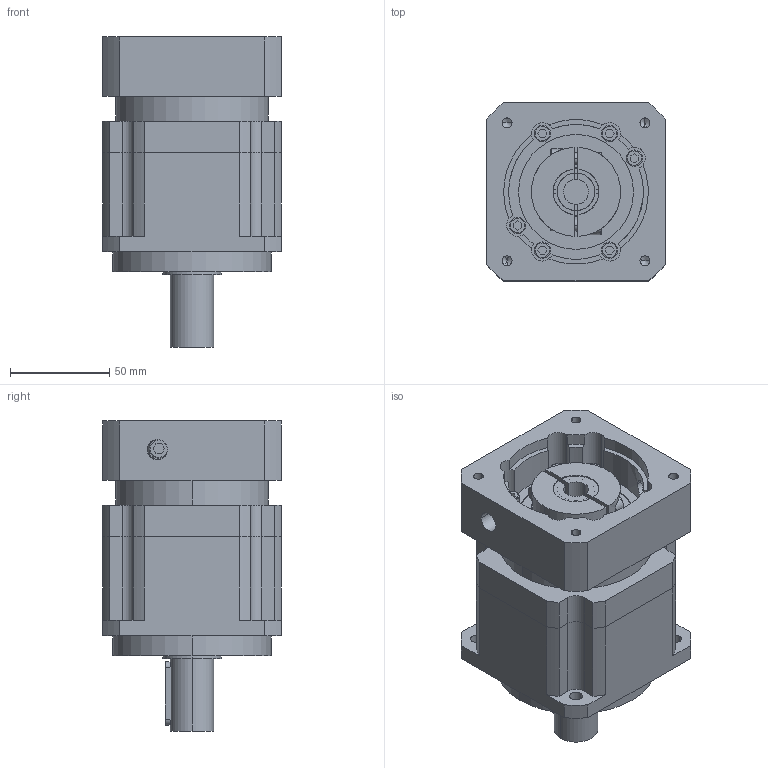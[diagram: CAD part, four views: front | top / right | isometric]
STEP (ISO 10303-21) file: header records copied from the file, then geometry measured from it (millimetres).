
FILE_DESCRIPTION (( 'STEP AP203' ), '1' );
FILE_NAME ('WAB090-L1-73-69.6-M6-12.7-43.STEP', '2020-03-18T02:22:21', ( 'Windows' ), ( 'Microsoft' ), 'SwSTEP 2.0', 'SolidWorks 2016', '' );
FILE_SCHEMA (( 'CONFIG_CONTROL_DESIGN' ));
Length unit declared in the file: millimetre
Products named in the file (1): WAB090-L1-73-69.6-M6-12.7-43
Bounding box: 90 x 90 x 156.5 mm (x, y, z)
Volume: 752891 mm3; surface area: 102137.2 mm2
Topology: 4 solids, 4 shells, 344 faces, 903 edges, 583 vertices
Faces by surface type: plane 165, cylinder 153, torus 16, cone 10
Entity records: 11170 total; most frequent: CARTESIAN_POINT 2292, DIRECTION 1933, ORIENTED_EDGE 1786, EDGE_CURVE 893, AXIS2_PLACEMENT_3D 714, VERTEX_POINT 583, VECTOR 505, LINE 505
